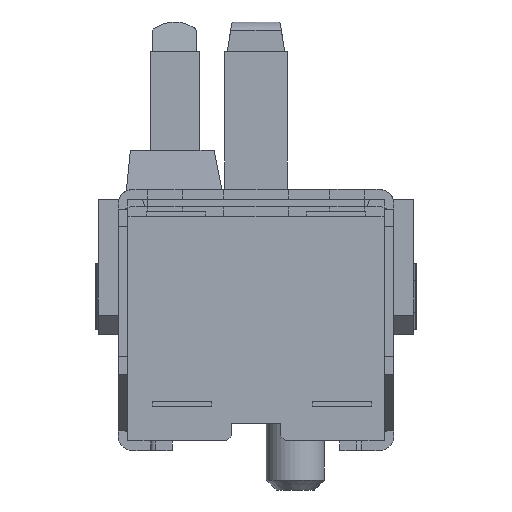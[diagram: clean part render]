
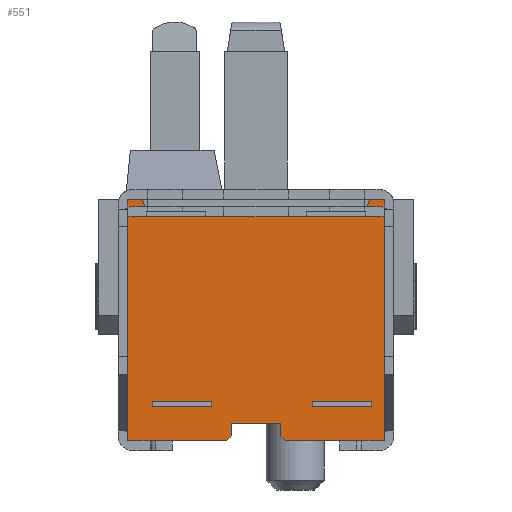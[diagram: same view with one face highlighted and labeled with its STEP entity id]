
A CAD part, front view. The second image highlights one B-rep face of the part: STEP entity #551.
In plain terms, the highlighted planar face has unit normal (0, -1, 0).
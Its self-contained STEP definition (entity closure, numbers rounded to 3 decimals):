
#551 = ADVANCED_FACE( '', ( #1272 ), #1273, .F. );
#1272 = FACE_OUTER_BOUND( '', #2169, .T. );
#1273 = PLANE( '', #2170 );
#2169 = EDGE_LOOP( '', ( #3875, #3876, #3877, #3878, #3879, #3880, #3881, #3882, #3883, #3884, #3885, #3886, #3887, #3888 ) );
#2170 = AXIS2_PLACEMENT_3D( '', #3889, #3890, #3891 );
#3875 = ORIENTED_EDGE( '', *, *, #6281, .T. );
#3876 = ORIENTED_EDGE( '', *, *, #5863, .T. );
#3877 = ORIENTED_EDGE( '', *, *, #6282, .F. );
#3878 = ORIENTED_EDGE( '', *, *, #6040, .F. );
#3879 = ORIENTED_EDGE( '', *, *, #6283, .T. );
#3880 = ORIENTED_EDGE( '', *, *, #6284, .F. );
#3881 = ORIENTED_EDGE( '', *, *, #6285, .F. );
#3882 = ORIENTED_EDGE( '', *, *, #6060, .T. );
#3883 = ORIENTED_EDGE( '', *, *, #6286, .T. );
#3884 = ORIENTED_EDGE( '', *, *, #6287, .F. );
#3885 = ORIENTED_EDGE( '', *, *, #6016, .T. );
#3886 = ORIENTED_EDGE( '', *, *, #6083, .T. );
#3887 = ORIENTED_EDGE( '', *, *, #6288, .F. );
#3888 = ORIENTED_EDGE( '', *, *, #6289, .T. );
#3889 = CARTESIAN_POINT( '', ( 2.6, -1.5, -4.55 ) );
#3890 = DIRECTION( '', ( 0., 1., 0. ) );
#3891 = DIRECTION( '', ( -1., 0., 0. ) );
#5863 = EDGE_CURVE( '', #7252, #7256, #7258, .T. );
#6016 = EDGE_CURVE( '', #7508, #7506, #7509, .T. );
#6040 = EDGE_CURVE( '', #7545, #7547, #7548, .T. );
#6060 = EDGE_CURVE( '', #7579, #7577, #7580, .T. );
#6083 = EDGE_CURVE( '', #7506, #7612, #7614, .T. );
#6281 = EDGE_CURVE( '', #7906, #7252, #7907, .T. );
#6282 = EDGE_CURVE( '', #7547, #7256, #7908, .T. );
#6283 = EDGE_CURVE( '', #7545, #7909, #7910, .T. );
#6284 = EDGE_CURVE( '', #7911, #7909, #7912, .T. );
#6285 = EDGE_CURVE( '', #7579, #7911, #7913, .T. );
#6286 = EDGE_CURVE( '', #7577, #7914, #7915, .T. );
#6287 = EDGE_CURVE( '', #7508, #7914, #7916, .T. );
#6288 = EDGE_CURVE( '', #7917, #7612, #7918, .T. );
#6289 = EDGE_CURVE( '', #7917, #7906, #7919, .T. );
#7252 = VERTEX_POINT( '', #9481 );
#7256 = VERTEX_POINT( '', #9487 );
#7258 = LINE( '', #9490, #9491 );
#7506 = VERTEX_POINT( '', #9853 );
#7508 = VERTEX_POINT( '', #9856 );
#7509 = LINE( '', #9857, #9858 );
#7545 = VERTEX_POINT( '', #9909 );
#7547 = VERTEX_POINT( '', #9912 );
#7548 = LINE( '', #9913, #9914 );
#7577 = VERTEX_POINT( '', #9954 );
#7579 = VERTEX_POINT( '', #9957 );
#7580 = LINE( '', #9958, #9959 );
#7612 = VERTEX_POINT( '', #10006 );
#7614 = LINE( '', #10009, #10010 );
#7906 = VERTEX_POINT( '', #10437 );
#7907 = LINE( '', #10438, #10439 );
#7908 = LINE( '', #10440, #10441 );
#7909 = VERTEX_POINT( '', #10442 );
#7910 = LINE( '', #10443, #10444 );
#7911 = VERTEX_POINT( '', #10445 );
#7912 = LINE( '', #10446, #10447 );
#7913 = LINE( '', #10448, #10449 );
#7914 = VERTEX_POINT( '', #10450 );
#7915 = LINE( '', #10451, #10452 );
#7916 = LINE( '', #10453, #10454 );
#7917 = VERTEX_POINT( '', #10455 );
#7918 = LINE( '', #10456, #10457 );
#7919 = LINE( '', #10458, #10459 );
#9481 = CARTESIAN_POINT( '', ( -2.3, -1.5, 0.35 ) );
#9487 = CARTESIAN_POINT( '', ( -2.6, -1.5, 0.35 ) );
#9490 = CARTESIAN_POINT( '', ( -2.2, -1.5, 0.35 ) );
#9491 = VECTOR( '', #11655, 1000. );
#9853 = CARTESIAN_POINT( '', ( 2.6, -1.5, 0.35 ) );
#9856 = CARTESIAN_POINT( '', ( 2.6, -1.5, -4.55 ) );
#9857 = CARTESIAN_POINT( '', ( 2.6, -1.5, -4.55 ) );
#9858 = VECTOR( '', #11795, 1000. );
#9909 = CARTESIAN_POINT( '', ( -0.6, -1.5, -4.55 ) );
#9912 = CARTESIAN_POINT( '', ( -2.6, -1.5, -4.55 ) );
#9913 = CARTESIAN_POINT( '', ( 2.6, -1.5, -4.55 ) );
#9914 = VECTOR( '', #11821, 1000. );
#9954 = CARTESIAN_POINT( '', ( 0.5, -1.5, -4.45 ) );
#9957 = CARTESIAN_POINT( '', ( 0.5, -1.5, -4.2 ) );
#9958 = CARTESIAN_POINT( '', ( 0.5, -1.5, -4.2 ) );
#9959 = VECTOR( '', #11840, 1000. );
#10006 = CARTESIAN_POINT( '', ( 2.3, -1.5, 0.35 ) );
#10009 = CARTESIAN_POINT( '', ( 2.6, -1.5, 0.35 ) );
#10010 = VECTOR( '', #11860, 1000. );
#10437 = CARTESIAN_POINT( '', ( -2.2, -1.5, 0. ) );
#10438 = CARTESIAN_POINT( '', ( -2.2, -1.5, 0. ) );
#10439 = VECTOR( '', #12044, 1000. );
#10440 = CARTESIAN_POINT( '', ( -2.6, -1.5, -4.55 ) );
#10441 = VECTOR( '', #12045, 1000. );
#10442 = CARTESIAN_POINT( '', ( -0.5, -1.5, -4.45 ) );
#10443 = CARTESIAN_POINT( '', ( -0.5, -1.5, -4.45 ) );
#10444 = VECTOR( '', #12046, 1000. );
#10445 = CARTESIAN_POINT( '', ( -0.5, -1.5, -4.2 ) );
#10446 = CARTESIAN_POINT( '', ( -0.5, -1.5, -4.2 ) );
#10447 = VECTOR( '', #12047, 1000. );
#10448 = CARTESIAN_POINT( '', ( 0.5, -1.5, -4.2 ) );
#10449 = VECTOR( '', #12048, 1000. );
#10450 = CARTESIAN_POINT( '', ( 0.6, -1.5, -4.55 ) );
#10451 = CARTESIAN_POINT( '', ( 0.5, -1.5, -4.45 ) );
#10452 = VECTOR( '', #12049, 1000. );
#10453 = CARTESIAN_POINT( '', ( 2.6, -1.5, -4.55 ) );
#10454 = VECTOR( '', #12050, 1000. );
#10455 = CARTESIAN_POINT( '', ( 2.2, -1.5, 0. ) );
#10456 = CARTESIAN_POINT( '', ( 2.2, -1.5, 0. ) );
#10457 = VECTOR( '', #12051, 1000. );
#10458 = CARTESIAN_POINT( '', ( 2.6, -1.5, 0. ) );
#10459 = VECTOR( '', #12052, 1000. );
#11655 = DIRECTION( '', ( -1., 0., 0. ) );
#11795 = DIRECTION( '', ( 0., 0., 1. ) );
#11821 = DIRECTION( '', ( -1., 0., 0. ) );
#11840 = DIRECTION( '', ( 0., 0., -1. ) );
#11860 = DIRECTION( '', ( -1., 0., 0. ) );
#12044 = DIRECTION( '', ( -0.275, 0., 0.962 ) );
#12045 = DIRECTION( '', ( 0., 0., 1. ) );
#12046 = DIRECTION( '', ( 0.707, 0., 0.707 ) );
#12047 = DIRECTION( '', ( 0., 0., -1. ) );
#12048 = DIRECTION( '', ( -1., 0., 0. ) );
#12049 = DIRECTION( '', ( 0.707, 0., -0.707 ) );
#12050 = DIRECTION( '', ( -1., 0., 0. ) );
#12051 = DIRECTION( '', ( 0.275, 0., 0.962 ) );
#12052 = DIRECTION( '', ( -1., 0., 0. ) );
